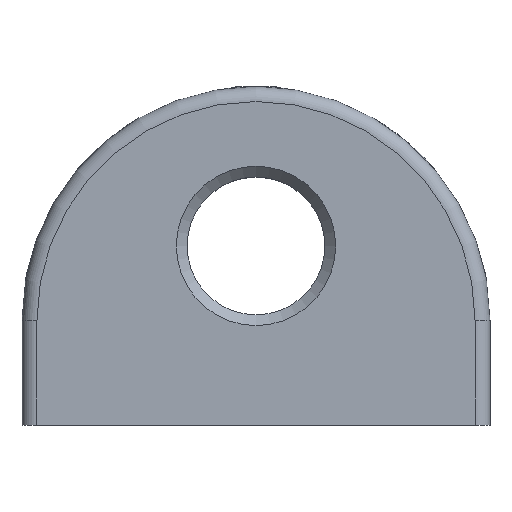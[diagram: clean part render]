
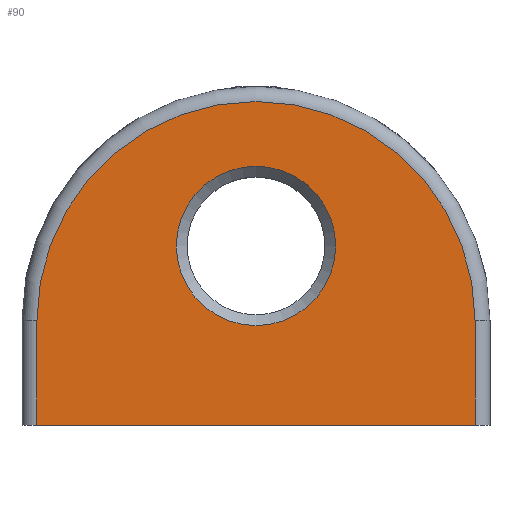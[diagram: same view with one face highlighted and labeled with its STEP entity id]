
A CAD part, top view. The second image highlights one B-rep face of the part: STEP entity #90.
In plain terms, the highlighted planar face has unit normal (0, 0, 1).
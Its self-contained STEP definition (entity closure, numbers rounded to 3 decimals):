
#90 = ADVANCED_FACE( '', ( #167, #168 ), #169, .F. );
#167 = FACE_BOUND( '', #301, .T. );
#168 = FACE_OUTER_BOUND( '', #302, .T. );
#169 = PLANE( '', #303 );
#301 = EDGE_LOOP( '', ( #501 ) );
#302 = EDGE_LOOP( '', ( #502, #503, #504, #505 ) );
#303 = AXIS2_PLACEMENT_3D( '', #506, #507, #508 );
#501 = ORIENTED_EDGE( '', *, *, #787, .T. );
#502 = ORIENTED_EDGE( '', *, *, #823, .F. );
#503 = ORIENTED_EDGE( '', *, *, #794, .F. );
#504 = ORIENTED_EDGE( '', *, *, #824, .T. );
#505 = ORIENTED_EDGE( '', *, *, #825, .T. );
#506 = CARTESIAN_POINT( '', ( -22., 10.5, 7. ) );
#507 = DIRECTION( '', ( 0., 0., -1. ) );
#508 = DIRECTION( '', ( -1., 0., 0. ) );
#787 = EDGE_CURVE( '', #903, #903, #904, .T. );
#794 = EDGE_CURVE( '', #916, #918, #919, .T. );
#823 = EDGE_CURVE( '', #918, #969, #970, .T. );
#824 = EDGE_CURVE( '', #916, #971, #972, .T. );
#825 = EDGE_CURVE( '', #971, #969, #973, .T. );
#903 = VERTEX_POINT( '', #1219 );
#904 = CIRCLE( '', #1220, 8. );
#916 = VERTEX_POINT( '', #1232 );
#918 = VERTEX_POINT( '', #1234 );
#919 = CIRCLE( '', #1235, 22. );
#969 = VERTEX_POINT( '', #1342 );
#970 = LINE( '', #1343, #1344 );
#971 = VERTEX_POINT( '', #1345 );
#972 = LINE( '', #1346, #1347 );
#973 = LINE( '', #1348, #1349 );
#1219 = CARTESIAN_POINT( '', ( -8., 18., 7. ) );
#1220 = AXIS2_PLACEMENT_3D( '', #1556, #1557, #1558 );
#1232 = CARTESIAN_POINT( '', ( -22., 10.5, 7. ) );
#1234 = CARTESIAN_POINT( '', ( 22., 10.5, 7. ) );
#1235 = AXIS2_PLACEMENT_3D( '', #1577, #1578, #1579 );
#1342 = CARTESIAN_POINT( '', ( 22., 0., 7. ) );
#1343 = CARTESIAN_POINT( '', ( 22., 10.5, 7. ) );
#1344 = VECTOR( '', #1633, 1000. );
#1345 = CARTESIAN_POINT( '', ( -22., 0., 7. ) );
#1346 = CARTESIAN_POINT( '', ( -22., 10.5, 7. ) );
#1347 = VECTOR( '', #1634, 1000. );
#1348 = CARTESIAN_POINT( '', ( -22., 0., 7. ) );
#1349 = VECTOR( '', #1635, 1000. );
#1556 = CARTESIAN_POINT( '', ( 0., 18., 7. ) );
#1557 = DIRECTION( '', ( 0., 0., -1. ) );
#1558 = DIRECTION( '', ( -1., 0., 0. ) );
#1577 = CARTESIAN_POINT( '', ( 0., 10.5, 7. ) );
#1578 = DIRECTION( '', ( 0., 0., -1. ) );
#1579 = DIRECTION( '', ( -1., 0., 0. ) );
#1633 = DIRECTION( '', ( 0., -1., 0. ) );
#1634 = DIRECTION( '', ( 0., -1., 0. ) );
#1635 = DIRECTION( '', ( 1., 0., 0. ) );
